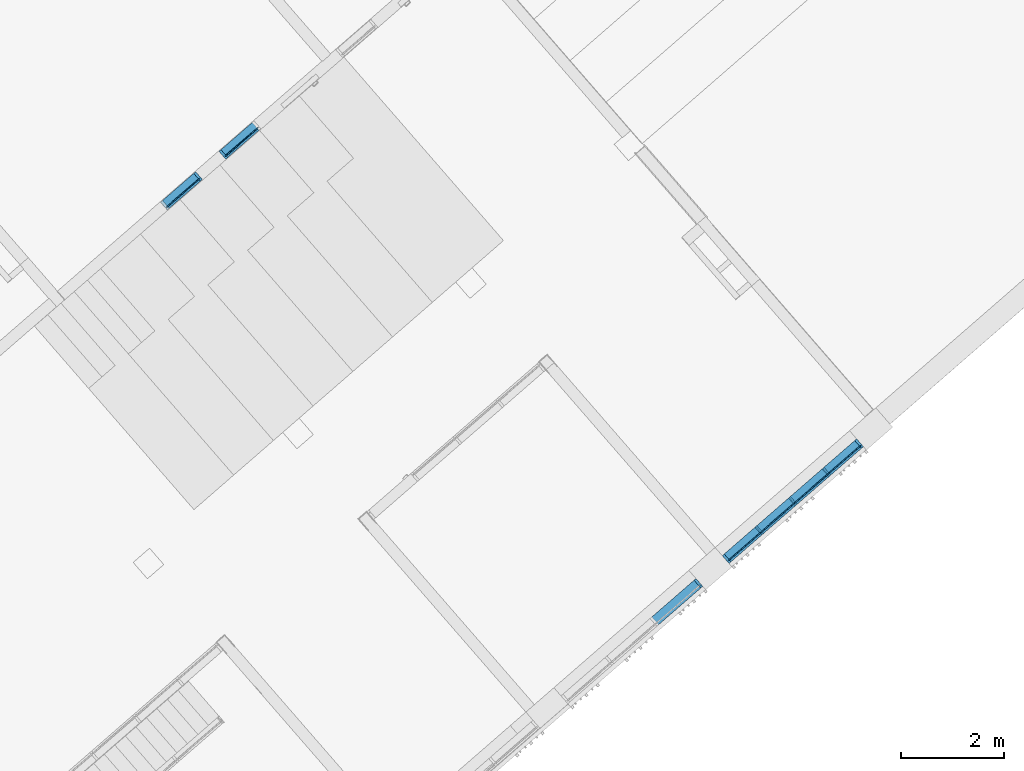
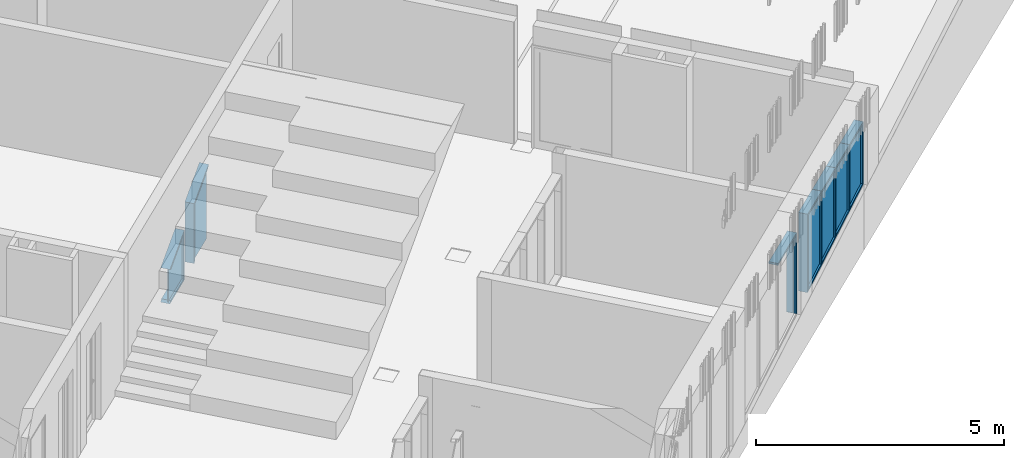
# One storey, part 12 of 124: 26 discrete accessories, 4 elements without a shape of their own.
"""IFC2X3 building model written with IfcOpenShell, lengths in millimetres."""

from ifc_helpers import new_model, entity, si_unit, converted_unit, derived_unit, money_unit, direction, frame, origin_with_axes, place, context, subcontext, project, spatial, polyline, outline, extrude, clip, halfspace, material, material_list, type_object, element, aggregate, save


model = new_model("IFC2X3")

# Units and contexts
model_context = context("Model", 3, precision=1e-05, world=origin_with_axes(), true_north=direction((0.0, 1.0)))
body_context = subcontext(model_context, "Body", "Model", "MODEL_VIEW")
ifc_project = project(units=[si_unit("LENGTHUNIT", "METRE", prefix="MILLI"), si_unit("AREAUNIT", "SQUARE_METRE"), si_unit("VOLUMEUNIT", "CUBIC_METRE"), converted_unit("PLANEANGLEUNIT", "DEGREE", entity("IfcPlaneAngleMeasure", 0.0174532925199), si_unit("PLANEANGLEUNIT", "RADIAN"), dimensions=[0, 0, 0, 0, 0, 0, 0]), si_unit("SOLIDANGLEUNIT", "STERADIAN"), money_unit("EUR"), converted_unit("TIMEUNIT", "Year", entity("IfcTimeMeasure", 31556926.0), si_unit("TIMEUNIT", "SECOND"), dimensions=[0, 0, 1, 0, 0, 0, 0]), si_unit("MASSUNIT", "GRAM", prefix="KILO"), si_unit("THERMODYNAMICTEMPERATUREUNIT", "DEGREE_CELSIUS"), si_unit("LUMINOUSINTENSITYUNIT", "LUMEN"), si_unit("ENERGYUNIT", "JOULE", prefix="MEGA"), derived_unit("THERMALCONDUCTANCEUNIT", [(si_unit("POWERUNIT", "WATT"), 1), (si_unit("LENGTHUNIT", "METRE"), -1), (si_unit("THERMODYNAMICTEMPERATUREUNIT", "KELVIN"), -1)]), derived_unit("SPECIFICHEATCAPACITYUNIT", [(si_unit("ENERGYUNIT", "JOULE"), 1), (si_unit("MASSUNIT", "GRAM", prefix="KILO"), -1), (si_unit("THERMODYNAMICTEMPERATUREUNIT", "KELVIN"), -1)]), derived_unit("MASSDENSITYUNIT", [(si_unit("MASSUNIT", "GRAM", prefix="KILO"), 1), (si_unit("VOLUMEUNIT", "CUBIC_METRE"), -1)])], contexts=[model_context])

# Site, building, storey
site_placement = place(None, origin_with_axes())
site = spatial("IfcSite", under=ifc_project, at=site_placement, Name="Site", CompositionType="ELEMENT")
building_placement = place(site_placement, origin_with_axes())
building = spatial("IfcBuilding", under=site, at=building_placement, Name="Building", CompositionType="ELEMENT")
storey_placement = place(building_placement, frame((0.0, 0.0, -1615.0), z_axis=(0.0, 0.0, 1.0), x_axis=(1.0, 0.0, 0.0)))
storey = spatial("IfcBuildingStorey", under=building, at=storey_placement, Name="0  korrus", CompositionType="ELEMENT", Elevation=-1615.0)

# Curtain wall, discrete accessories
curtain_wall_type_1 = type_object("IfcCurtainWallType", Name="KLF-01", PredefinedType="NOTDEFINED")
curtain_wall_1_placement = place(storey_placement, frame((171064.169464, 93549.0825919, 619.521386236), z_axis=(0.0, 0.0, 1.0), x_axis=(1.0, 0.0, 0.0)))
curtain_wall_1 = element("IfcCurtainWall", 1, at=curtain_wall_1_placement, inside=storey, type_object=curtain_wall_type_1, Name="Klaasfassaad")
ifc_material_1 = material(Name="Klaas")
discrete_accessory_type_1 = type_object("IfcDiscreteAccessoryType", Name="Distinct Panel 863 x 1698 x 20")
discrete_accessory_1_placement = place(curtain_wall_1_placement, frame((0.0, 0.0, 1086.09778651), z_axis=(0.0, 0.0, 1.0), x_axis=(-0.754709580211, -0.656059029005, 0.0)))
discrete_accessory_1 = element("IfcDiscreteAccessory", 2, at=discrete_accessory_1_placement, type_object=discrete_accessory_type_1, material=ifc_material_1, Name="KLF-01 klaaspakett", context=body_context, shape_type="SweptSolid", body=[
    extrude(outline(polyline([(-431.250048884, -824.67149797), (431.25005364, -824.67149797), (431.25005364, 872.831743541), (-431.250048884, 776.261252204), (-431.250048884, -824.67149797)])), frame((0.0, -9.99999999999, 0.0), z_axis=(0.0, 1.0, 0.0), x_axis=(1.0, 0.0, 0.0)), (0.0, 0.0, 1.0), 20.0),
])
discrete_accessory_type_2 = type_object("IfcDiscreteAccessoryType", Name="Distinct Panel 843 x 1888 x 20")
discrete_accessory_2_placement = place(curtain_wall_1_placement, frame((-1301.87415604, -1131.7019382, 989.5272469), z_axis=(0.0, 0.0, 1.0), x_axis=(-0.754709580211, -0.656059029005, 0.0)))
discrete_accessory_2 = element("IfcDiscreteAccessory", 3, at=discrete_accessory_2_placement, type_object=discrete_accessory_type_2, material=ifc_material_1, Name="KLF-01 klaaspakett", context=body_context, shape_type="SweptSolid", body=[
    extrude(outline(polyline([(-431.250031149, -921.241968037), (411.250045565, -921.241996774), (411.250045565, 967.162934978), (-431.250031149, 872.831736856), (-431.250031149, -921.241968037)])), frame((0.0, -10.0, 0.0), z_axis=(0.0, 1.0, 0.0), x_axis=(1.0, 0.0, 0.0)), (0.0, 0.0, 1.0), 20.0),
])
discrete_accessory_type_3 = type_object("IfcDiscreteAccessoryType", Name="Distinct Panel 863 x 1794 x 20")
discrete_accessory_3_placement = place(curtain_wall_1_placement, frame((-650.937078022, -565.850969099, 1037.81252112), z_axis=(0.0, 0.0, 1.0), x_axis=(-0.754709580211, -0.656059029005, 0.0)))
discrete_accessory_3 = element("IfcDiscreteAccessory", 4, at=discrete_accessory_3_placement, type_object=discrete_accessory_type_3, material=ifc_material_1, Name="KLF-01 klaaspakett", context=body_context, shape_type="SweptSolid", body=[
    extrude(outline(polyline([(-431.250032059, -872.956736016), (431.250043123, -872.956708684), (431.250043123, 921.117003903), (-431.250032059, 824.546477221), (-431.250032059, -872.956736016)])), frame((0.0, -10.0, 0.0), z_axis=(0.0, 1.0, 0.0), x_axis=(1.0, 0.0, 0.0)), (0.0, 0.0, 1.0), 20.0),
])
discrete_accessory_type_4 = type_object("IfcDiscreteAccessoryType", Name="Distinct Panel 843 x 1601 x 20")
discrete_accessory_4_placement = place(curtain_wall_1_placement, frame((650.937078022, 565.850969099, 1134.38303973), z_axis=(0.0, 0.0, 1.0), x_axis=(-0.754709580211, -0.656059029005, 0.0)))
discrete_accessory_4 = element("IfcDiscreteAccessory", 5, at=discrete_accessory_4_placement, type_object=discrete_accessory_type_4, material=ifc_material_1, Name="KLF-01 klaaspakett", context=body_context, shape_type="SweptSolid", body=[
    extrude(outline(polyline([(-411.250032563, -776.386216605), (431.250052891, -776.386216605), (431.250052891, 824.546524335), (-411.250032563, 730.215318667), (-411.250032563, -776.386216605)])), frame((0.0, -9.99999999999, 0.0), z_axis=(0.0, 1.0, 0.0), x_axis=(1.0, 0.0, 0.0)), (0.0, 0.0, 1.0), 20.0),
])
ifc_material_2 = material(Name="Aluminium MUST")
discrete_accessory_type_5 = type_object("IfcDiscreteAccessoryType", Name="50 x 200")
discrete_accessory_5_placement = place(curtain_wall_1_placement, frame((325.468539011, 282.925484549, 289.711545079), z_axis=(0.750022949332, 0.651985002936, 0.111270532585), x_axis=(-0.0839769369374, -0.0730000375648, 0.99379015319)))
discrete_accessory_5 = element("IfcDiscreteAccessory", 6, at=discrete_accessory_5_placement, type_object=discrete_accessory_type_5, material=ifc_material_2, Name="KLF-04 profiil", context=body_context, shape_type="Clipping", body=[
    clip(extrude(outline(polyline([(-10.0, -25.0), (9.99999999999, -25.0), (10.0, -50.0), (50.0, -50.0), (50.0, 0.0), (-150.0, 0.0), (-150.0, -50.0), (-9.99999999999, -50.0), (-10.0, -25.0)])), frame((0.0, 0.0, -1.47173295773e-06), z_axis=(0.0, 0.0, 1.0), x_axis=(0.0, 1.0, 0.0)), (0.0, 0.0, 1.0), 867.889548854), halfspace(frame((431.250043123, 0.0, 482.230039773), z_axis=(-0.666606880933, 0.0, -0.74540946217), x_axis=(0.0, 1.0, 0.0)), True)),
])
ifc_material_list_1 = material_list([ifc_material_2, ifc_material_2])
discrete_accessory_6_placement = place(curtain_wall_1_placement, frame((-325.468539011, -282.925484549, 193.141064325), z_axis=(0.0, 0.0, 1.0), x_axis=(-0.754709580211, -0.656059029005, 0.0)))
discrete_accessory_6 = element("IfcDiscreteAccessory", 7, at=discrete_accessory_6_placement, type_object=discrete_accessory_type_5, material=ifc_material_list_1, Name="KLF-04 profiil", context=body_context, shape_type="Clipping", body=[
    clip(extrude(outline(polyline([(-117.276593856, 96.8049613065), (-25.4283297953, -8.85437992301), (12.3071492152, 23.9485715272), (-79.5411148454, 129.607912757), (-117.276593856, 96.8049613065)])), frame((0.0, 0.0, 47.5132880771), z_axis=(0.0, 0.0, 1.0), x_axis=(-0.754709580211, 0.656059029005, 0.0)), (0.0, 0.0, 1.0), 1640.11491534), halfspace(frame((5.56352370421, 0.0, 49.689507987), z_axis=(0.111270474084, 0.0, 0.993790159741), x_axis=(0.0, -1.0, 0.0)), True)),
    clip(extrude(outline(polyline([(51.6706909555, -21.3340032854), (25.4283297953, 8.85437992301), (-12.3071492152, -23.9485715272), (13.935211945, -54.1369547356), (51.6706909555, -21.3340032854)])), frame((0.0, 0.0, 47.5132880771), z_axis=(0.0, 0.0, 1.0), x_axis=(-0.754709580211, 0.656059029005, 0.0)), (0.0, 0.0, 1.0), 1640.11491872), halfspace(frame((5.56352370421, 0.0, 49.689507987), z_axis=(0.111270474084, 0.0, 0.993790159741), x_axis=(0.0, -1.0, 0.0)), True)),
])
discrete_accessory_7_placement = place(curtain_wall_1_placement, frame((-1627.34269505, -1414.62742275, -5.48544265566e-06), z_axis=(0.0, 0.0, 1.0), x_axis=(-0.754709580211, -0.656059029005, 0.0)))
discrete_accessory_7 = element("IfcDiscreteAccessory", 8, at=discrete_accessory_7_placement, type_object=discrete_accessory_type_5, material=ifc_material_2, Name="KLF-04 profiil", context=body_context, shape_type="Clipping", body=[
    clip(clip(extrude(outline(polyline([(12.3071492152, 23.9485715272), (31.1748887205, 40.3500472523), (-60.6733753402, 146.009388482), (-98.4088543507, 113.206437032), (32.8029514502, -37.7354790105), (70.5384304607, -4.9325275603), (44.2960693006, 25.2558556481), (25.4283297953, 8.85437992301), (12.3071492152, 23.9485715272)])), frame((0.0, 0.0, 0.0), z_axis=(0.0, 0.0, 1.0), x_axis=(-0.754709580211, 0.656059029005, 0.0)), (0.0, 0.0, 1.0), 1930.76924672), halfspace(frame((-965.384623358, 0.0, 965.38459925), z_axis=(0.707106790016, 0.0, -0.707106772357), x_axis=(0.0, 1.0, 0.0)), True)), halfspace(frame((0.0, 0.0, 0.0), z_axis=(0.745409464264, 0.0, 0.666606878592), x_axis=(0.0, -1.0, 0.0)), True)),
])
discrete_accessory_8_placement = place(curtain_wall_1_placement, frame((976.405617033, 848.776453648, 1930.76926831), z_axis=(-0.754709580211, -0.656059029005, 0.0), x_axis=(0.0, 0.0, -1.0)))
discrete_accessory_8 = element("IfcDiscreteAccessory", 9, at=discrete_accessory_8_placement, type_object=discrete_accessory_type_5, material=ifc_material_2, Name="KLF-04 profiil", context=body_context, shape_type="Clipping", body=[
    clip(extrude(outline(polyline([(9.99999999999, 25.0), (-9.99999999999, 25.0), (-9.99999999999, 50.0), (-50.0, 50.0), (-50.0, 0.0), (150.0, 0.0), (150.0, 50.0), (9.99999999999, 50.0), (9.99999999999, 25.0)])), frame((0.0, 0.0, 0.0), z_axis=(0.0, 0.0, 1.0), x_axis=(0.0, -1.0, 0.0)), (0.0, 0.0, 1.0), 862.500086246), halfspace(frame((0.0, 0.0, 0.0), z_axis=(-0.707106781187, 0.0, 0.707106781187), x_axis=(0.0, -1.0, 0.0)), True)),
])
discrete_accessory_9_placement = place(curtain_wall_1_placement, frame((-325.468539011, -282.925484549, 193.141064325), z_axis=(0.750022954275, 0.651985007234, 0.111270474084), x_axis=(-0.083976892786, -0.0729999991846, 0.993790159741)))
discrete_accessory_9 = element("IfcDiscreteAccessory", 10, at=discrete_accessory_9_placement, type_object=discrete_accessory_type_5, material=ifc_material_2, Name="KLF-04 profiil", context=body_context, shape_type="SweptSolid", body=[
    extrude(outline(polyline([(-10.0, -25.0), (10.0, -25.0), (10.0, -50.0), (50.0, -50.0), (50.0, 0.0), (-150.0, 0.0), (-150.0, -50.0), (-9.99999999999, -50.0), (-10.0, -25.0)])), frame((0.0, 0.0, -1.47170453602e-06), z_axis=(0.0, 0.0, 1.0), x_axis=(0.0, 1.0, 0.0)), (0.0, 0.0, 1.0), 867.889544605),
])
discrete_accessory_10_placement = place(curtain_wall_1_placement, frame((325.468539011, 282.925484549, 289.711545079), z_axis=(0.0, 0.0, 1.0), x_axis=(-0.754709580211, -0.656059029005, 0.0)))
discrete_accessory_10 = element("IfcDiscreteAccessory", 11, at=discrete_accessory_10_placement, type_object=discrete_accessory_type_5, material=ifc_material_list_1, Name="KLF-04 profiil", context=body_context, shape_type="Clipping", body=[
    clip(extrude(outline(polyline([(-117.276593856, 96.8049613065), (-25.4283297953, -8.85437992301), (12.3071492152, 23.9485715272), (-79.5411148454, 129.607912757), (-117.276593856, 96.8049613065)])), frame((0.0, 0.0, 47.5132869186), z_axis=(0.0, 0.0, 1.0), x_axis=(-0.754709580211, 0.656059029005, 0.0)), (0.0, 0.0, 1.0), 1543.54443631), halfspace(frame((5.56352662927, 0.0, 49.6895076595), z_axis=(0.111270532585, 0.0, 0.99379015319), x_axis=(0.0, -1.0, 0.0)), True)),
    clip(extrude(outline(polyline([(51.6706909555, -21.3340032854), (25.4283297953, 8.85437992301), (-12.3071492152, -23.9485715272), (13.935211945, -54.1369547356), (51.6706909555, -21.3340032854)])), frame((0.0, 0.0, 47.5132869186), z_axis=(0.0, 0.0, 1.0), x_axis=(-0.754709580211, 0.656059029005, 0.0)), (0.0, 0.0, 1.0), 1543.54443631), halfspace(frame((5.56352662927, 0.0, 49.6895076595), z_axis=(0.111270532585, 0.0, 0.99379015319), x_axis=(0.0, -1.0, 0.0)), True)),
])
discrete_accessory_11_placement = place(curtain_wall_1_placement, frame((-976.405617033, -848.776453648, 96.5705321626), z_axis=(0.750022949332, 0.651985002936, 0.111270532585), x_axis=(-0.0839769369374, -0.0730000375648, 0.99379015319)))
discrete_accessory_11 = element("IfcDiscreteAccessory", 12, at=discrete_accessory_11_placement, type_object=discrete_accessory_type_5, material=ifc_material_2, Name="KLF-04 profiil", context=body_context, shape_type="SweptSolid", body=[
    extrude(outline(polyline([(-9.99999999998, -25.0), (10.0, -25.0), (10.0, -50.0), (50.0, -50.0), (50.0, 0.0), (-150.0, 0.0), (-150.0, -50.0), (-10.0, -50.0), (-9.99999999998, -25.0)])), frame((0.0, 0.0, -1.57029944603e-07), z_axis=(0.0, 0.0, 1.0), x_axis=(0.0, 1.0, 0.0)), (0.0, 0.0, 1.0), 867.889549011),
])
discrete_accessory_12_placement = place(curtain_wall_1_placement, frame((-325.468539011, -282.925484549, 1930.76926831), z_axis=(-0.754709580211, -0.656059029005, -5.63671925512e-08), x_axis=(4.25408602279e-08, 3.69802056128e-08, -1.0)))
discrete_accessory_12 = element("IfcDiscreteAccessory", 13, at=discrete_accessory_12_placement, type_object=discrete_accessory_type_5, material=ifc_material_2, Name="KLF-04 profiil", context=body_context, shape_type="SweptSolid", body=[
    extrude(outline(polyline([(10.0, 25.0), (-10.0, 25.0), (-9.99999999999, 50.0), (-50.0, 50.0), (-50.0, 0.0), (150.0, 0.0), (150.0, 50.0), (10.0, 50.0), (10.0, 25.0)])), frame((0.0, 0.0, -1.40914835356e-06), z_axis=(0.0, 0.0, 1.0), x_axis=(0.0, -1.0, 0.0)), (0.0, 0.0, 1.0), 862.500089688),
])
discrete_accessory_13_placement = place(curtain_wall_1_placement, frame((976.405617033, 848.776453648, 386.282077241), z_axis=(0.0, 0.0, 1.0), x_axis=(-0.754709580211, -0.656059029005, 0.0)))
discrete_accessory_13 = element("IfcDiscreteAccessory", 14, at=discrete_accessory_13_placement, type_object=discrete_accessory_type_5, material=ifc_material_2, Name="KLF-04 profiil", context=body_context, shape_type="Clipping", body=[
    clip(clip(extrude(outline(polyline([(-25.4283297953, -8.85437992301), (-12.3071492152, -23.9485715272), (-31.1748887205, -40.3500472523), (-4.9325275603, -70.5384304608), (32.8029514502, -37.7354790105), (-98.4088543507, 113.206437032), (-136.144333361, 80.4034855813), (-44.2960693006, -25.2558556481), (-25.4283297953, -8.85437992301)])), frame((0.0, 0.0, 0.0), z_axis=(0.0, 0.0, 1.0), x_axis=(-0.754709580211, 0.656059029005, 0.0)), (0.0, 0.0, 1.0), 1544.48719107), halfspace(frame((772.243595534, 0.0, 772.243595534), z_axis=(-0.707106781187, 0.0, -0.707106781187), x_axis=(0.0, 1.0, 0.0)), True)), halfspace(frame((0.0, 0.0, 0.0), z_axis=(-0.666606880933, 0.0, 0.74540946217), x_axis=(0.0, -1.0, 0.0)), True)),
])
discrete_accessory_14_placement = place(curtain_wall_1_placement, frame((-1627.34269505, -1414.62742275, -5.48544265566e-06), z_axis=(0.750022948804, 0.651985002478, 0.111270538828), x_axis=(-0.0839769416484, -0.0730000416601, 0.993790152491)))
discrete_accessory_14 = element("IfcDiscreteAccessory", 15, at=discrete_accessory_14_placement, type_object=discrete_accessory_type_5, material=ifc_material_2, Name="KLF-04 profiil", context=body_context, shape_type="Clipping", body=[
    clip(extrude(outline(polyline([(-10.0, -25.0), (9.99999999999, -25.0), (9.99999999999, -50.0), (50.0, -50.0), (50.0, 0.0), (-150.0, 0.0), (-150.0, -50.0), (-9.99999999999, -50.0), (-10.0, -25.0)])), frame((0.0, 0.0, 0.0), z_axis=(0.0, 0.0, 1.0), x_axis=(0.0, 1.0, 0.0)), (0.0, 0.0, 1.0), 867.88954815), halfspace(frame((0.0, 0.0, 0.0), z_axis=(-0.745409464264, 0.0, 0.666606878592), x_axis=(0.0, -1.0, 0.0)), True)),
])
discrete_accessory_15_placement = place(curtain_wall_1_placement, frame((325.468539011, 282.925484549, 1930.76926831), z_axis=(-0.754709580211, -0.656059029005, 0.0), x_axis=(0.0, 0.0, -1.0)))
discrete_accessory_15 = element("IfcDiscreteAccessory", 16, at=discrete_accessory_15_placement, type_object=discrete_accessory_type_5, material=ifc_material_2, Name="KLF-04 profiil", context=body_context, shape_type="SweptSolid", body=[
    extrude(outline(polyline([(10.0, 25.0), (-10.0, 25.0), (-10.0, 50.0), (-50.0, 50.0), (-50.0, 0.0), (150.0, 0.0), (150.0, 50.0), (10.0, 50.0), (10.0, 25.0)])), frame((0.0, 0.0, 0.0), z_axis=(0.0, 0.0, 1.0), x_axis=(0.0, -1.0, 0.0)), (0.0, 0.0, 1.0), 862.500087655),
])
discrete_accessory_16_placement = place(curtain_wall_1_placement, frame((-976.405617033, -848.776453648, 1930.76921969), z_axis=(-0.754709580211, -0.656059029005, 2.49733374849e-08), x_axis=(-1.88476170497e-08, -1.63839835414e-08, -1.0)))
discrete_accessory_16 = element("IfcDiscreteAccessory", 17, at=discrete_accessory_16_placement, type_object=discrete_accessory_type_5, material=ifc_material_2, Name="KLF-04 profiil", context=body_context, shape_type="Clipping", body=[
    clip(extrude(outline(polyline([(9.99999999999, 25.0), (-10.0, 25.0), (-10.0, 50.0), (-50.0, 50.0), (-50.0, 0.0), (150.0, 0.0), (150.0, 50.0), (9.99999999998, 50.0), (9.99999999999, 25.0)])), frame((0.0, 0.0, -2.03354488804e-06), z_axis=(0.0, 0.0, 1.0), x_axis=(0.0, -1.0, 0.0)), (0.0, 0.0, 1.0), 862.500088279), halfspace(frame((431.250043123, 0.0, 431.250032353), z_axis=(-0.707106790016, 0.0, -0.707106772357), x_axis=(0.0, 1.0, 0.0)), True)),
])
discrete_accessory_17_placement = place(curtain_wall_1_placement, frame((-976.405617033, -848.776453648, 96.5705321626), z_axis=(0.0, 0.0, 1.0), x_axis=(-0.754709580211, -0.656059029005, 0.0)))
discrete_accessory_17 = element("IfcDiscreteAccessory", 18, at=discrete_accessory_17_placement, type_object=discrete_accessory_type_5, material=ifc_material_list_1, Name="KLF-04 profiil", context=body_context, shape_type="Clipping", body=[
    clip(extrude(outline(polyline([(-117.276593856, 96.8049613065), (-25.4283297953, -8.85437992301), (12.3071492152, 23.9485715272), (-79.5411148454, 129.607912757), (-117.276593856, 96.8049613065)])), frame((0.0, 0.0, 47.5132869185), z_axis=(0.0, 0.0, 1.0), x_axis=(-0.754709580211, 0.656059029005, 0.0)), (0.0, 0.0, 1.0), 1736.68540036), halfspace(frame((5.56352662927, 0.0, 49.6895076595), z_axis=(0.111270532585, 0.0, 0.99379015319), x_axis=(0.0, -1.0, 0.0)), True)),
    clip(extrude(outline(polyline([(51.6706909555, -21.3340032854), (25.4283297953, 8.85437992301), (-12.3071492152, -23.9485715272), (13.935211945, -54.1369547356), (51.6706909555, -21.3340032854)])), frame((0.0, 0.0, 47.5132869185), z_axis=(0.0, 0.0, 1.0), x_axis=(-0.754709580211, 0.656059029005, 0.0)), (0.0, 0.0, 1.0), 1736.68540186), halfspace(frame((5.56352662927, 0.0, 49.6895076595), z_axis=(0.111270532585, 0.0, 0.99379015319), x_axis=(0.0, -1.0, 0.0)), True)),
])
aggregate(curtain_wall_1, [discrete_accessory_1, discrete_accessory_2, discrete_accessory_3, discrete_accessory_4, discrete_accessory_5, discrete_accessory_6, discrete_accessory_7, discrete_accessory_8, discrete_accessory_9, discrete_accessory_10, discrete_accessory_11, discrete_accessory_12, discrete_accessory_13, discrete_accessory_14, discrete_accessory_15, discrete_accessory_16, discrete_accessory_17])

curtain_wall_type_2 = type_object("IfcCurtainWallType", Name="KS-08", PredefinedType="NOTDEFINED")
curtain_wall_2_placement = place(storey_placement, frame((158892.83979, 99279.6170725, 9.8956762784e-06), z_axis=(0.0, 0.0, 1.0), x_axis=(1.0, 0.0, 0.0)))
curtain_wall_2 = element("IfcCurtainWall", 19, at=curtain_wall_2_placement, inside=storey, type_object=curtain_wall_type_2, Name="Klaas-sein")
discrete_accessory_type_6 = type_object("IfcDiscreteAccessoryType", Name="Distinct Panel 860 x 811 x 20")
discrete_accessory_18_placement = place(curtain_wall_2_placement, frame((0.0, 0.0, 516.42680259), z_axis=(0.0, 0.0, 1.0), x_axis=(-0.754709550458, -0.656059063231, 0.0)))
discrete_accessory_18 = element("IfcDiscreteAccessory", 20, at=discrete_accessory_18_placement, type_object=discrete_accessory_type_6, material=ifc_material_1, Name="KS-08 klaaspakett", context=body_context, shape_type="SweptSolid", body=[
    extrude(outline(polyline([(-429.999993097, -674.70308543), (430.000012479, -314.78884627), (430.000012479, 496.426815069), (-429.999993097, 496.426815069), (-429.999993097, -674.70308543)])), frame((0.0, -10.0, 0.0), z_axis=(0.0, 1.0, 0.0), x_axis=(1.0, 0.0, 0.0)), (0.0, 0.0, 1.0), 20.0),
])
ifc_material_list_2 = material_list([ifc_material_2, ifc_material_2, ifc_material_2])
discrete_accessory_type_7 = type_object("IfcDiscreteAccessoryType", Name="50 x 200")
discrete_accessory_19_placement = place(curtain_wall_2_placement, frame((339.619297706, 295.226578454, 1221.18081421), z_axis=(-0.696199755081, -0.605197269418, -0.386059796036), x_axis=(0.291363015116, 0.253278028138, -0.92247375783)))
discrete_accessory_19 = element("IfcDiscreteAccessory", 21, at=discrete_accessory_19_placement, type_object=discrete_accessory_type_7, material=ifc_material_list_2, Name="KS-08 profiil", context=body_context, shape_type="Clipping", body=[
    clip(clip(extrude(outline(polyline([(9.99999999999, 25.0), (-10.0, 25.0), (-10.0, 0.0), (10.0, 0.0), (9.99999999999, 25.0)])), frame((0.0, 0.0, 0.0), z_axis=(0.0, 0.0, 1.0), x_axis=(0.0, -1.0, 0.0)), (0.0, 0.0, 1.0), 975.63750986), halfspace(frame((450.0, 0.0, 676.14596396), z_axis=(-0.554048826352, 0.0, -0.832484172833), x_axis=(0.0, 1.0, 0.0)), True)), halfspace(frame((0.0, 0.0, 0.0), z_axis=(-0.832484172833, 0.0, 0.554048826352), x_axis=(0.0, -1.0, 0.0)), True)),
    clip(clip(extrude(outline(polyline([(150.0, 50.0), (9.99999999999, 50.0), (10.0, 0.0), (150.0, 0.0), (150.0, 50.0)])), frame((0.0, 0.0, 0.0), z_axis=(0.0, 0.0, 1.0), x_axis=(0.0, -1.0, 0.0)), (0.0, 0.0, 1.0), 975.63750986), halfspace(frame((450.0, 0.0, 676.14596396), z_axis=(-0.554048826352, 0.0, -0.832484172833), x_axis=(0.0, 1.0, 0.0)), True)), halfspace(frame((0.0, 0.0, 0.0), z_axis=(-0.832484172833, 0.0, 0.554048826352), x_axis=(0.0, -1.0, 0.0)), True)),
    clip(clip(extrude(outline(polyline([(-50.0, 0.0), (-10.0, 0.0), (-10.0, 50.0), (-50.0, 50.0), (-50.0, 0.0)])), frame((0.0, 0.0, 0.0), z_axis=(0.0, 0.0, 1.0), x_axis=(0.0, -1.0, 0.0)), (0.0, 0.0, 1.0), 975.63750986), halfspace(frame((450.0, 0.0, 676.14596396), z_axis=(-0.554048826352, 0.0, -0.832484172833), x_axis=(0.0, 1.0, 0.0)), True)), halfspace(frame((0.0, 0.0, 0.0), z_axis=(-0.832484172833, 0.0, 0.554048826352), x_axis=(0.0, -1.0, 0.0)), True)),
])
discrete_accessory_20_placement = place(curtain_wall_2_placement, frame((339.619297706, 295.226578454, 0.0), z_axis=(0.0, 0.0, 1.0), x_axis=(-0.754709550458, -0.656059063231, 0.0)))
discrete_accessory_20 = element("IfcDiscreteAccessory", 22, at=discrete_accessory_20_placement, type_object=discrete_accessory_type_7, material=ifc_material_list_2, Name="KS-08 profiil", context=body_context, shape_type="Clipping", body=[
    clip(clip(extrude(outline(polyline([(-25.4283293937, -8.8543810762), (-12.3071481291, -23.9485720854), (6.56059063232, -7.54709550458), (-6.56059063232, 7.54709550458), (-25.4283293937, -8.8543810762)])), frame((0.0, 0.0, 0.0), z_axis=(0.0, 0.0, 1.0), x_axis=(-0.754709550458, 0.656059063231, 0.0)), (0.0, 0.0, 1.0), 1221.18081421), halfspace(frame((563.253627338, 0.0, 374.865999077), z_axis=(-0.832484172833, 0.0, -0.554048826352), x_axis=(0.0, 1.0, 0.0)), True)), halfspace(frame((0.0, 0.0, 0.0), z_axis=(-0.707106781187, 0.0, 0.707106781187), x_axis=(0.0, -1.0, 0.0)), True)),
    clip(clip(extrude(outline(polyline([(-136.144337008, 80.4034794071), (-44.2960681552, -25.255857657), (-6.56059063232, 7.54709550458), (-98.4088594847, 113.206432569), (-136.144337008, 80.4034794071)])), frame((0.0, 0.0, 0.0), z_axis=(0.0, 0.0, 1.0), x_axis=(-0.754709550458, 0.656059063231, 0.0)), (0.0, 0.0, 1.0), 1221.18081421), halfspace(frame((563.253627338, 0.0, 374.865999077), z_axis=(-0.832484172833, 0.0, -0.554048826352), x_axis=(0.0, 1.0, 0.0)), True)), halfspace(frame((0.0, 0.0, 0.0), z_axis=(-0.707106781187, 0.0, 0.707106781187), x_axis=(0.0, -1.0, 0.0)), True)),
    clip(clip(extrude(outline(polyline([(32.8029531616, -37.7354775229), (6.56059063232, -7.54709550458), (-31.1748868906, -40.3500486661), (-4.93252436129, -70.5384306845), (32.8029531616, -37.7354775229)])), frame((0.0, 0.0, 0.0), z_axis=(0.0, 0.0, 1.0), x_axis=(-0.754709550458, 0.656059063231, 0.0)), (0.0, 0.0, 1.0), 1221.18081421), halfspace(frame((563.253627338, 0.0, 374.865999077), z_axis=(-0.832484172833, 0.0, -0.554048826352), x_axis=(0.0, 1.0, 0.0)), True)), halfspace(frame((0.0, 0.0, 0.0), z_axis=(-0.707106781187, 0.0, 0.707106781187), x_axis=(0.0, -1.0, 0.0)), True)),
])
discrete_accessory_21_placement = place(curtain_wall_2_placement, frame((-339.619297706, -295.226578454, 0.0), z_axis=(0.754709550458, 0.656059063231, 0.0), x_axis=(0.0, 0.0, 1.0)))
discrete_accessory_21 = element("IfcDiscreteAccessory", 23, at=discrete_accessory_21_placement, type_object=discrete_accessory_type_7, material=ifc_material_list_2, Name="KS-08 profiil", context=body_context, shape_type="Clipping", body=[
    clip(clip(extrude(outline(polyline([(-10.0, -25.0), (9.99999999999, -25.0), (9.99999999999, 0.0), (-10.0, 0.0), (-10.0, -25.0)])), frame((0.0, 0.0, 0.0), z_axis=(0.0, 0.0, 1.0), x_axis=(0.0, 1.0, 0.0)), (0.0, 0.0, 1.0), 900.0), halfspace(frame((450.0, 0.0, 450.0), z_axis=(-0.707106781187, 0.0, -0.707106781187), x_axis=(0.0, 1.0, 0.0)), True)), halfspace(frame((0.0, 0.0, 0.0), z_axis=(-0.707106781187, 0.0, 0.707106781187), x_axis=(0.0, -1.0, 0.0)), True)),
    clip(clip(extrude(outline(polyline([(-150.0, -50.0), (-10.0, -50.0), (-10.0, 0.0), (-150.0, 0.0), (-150.0, -50.0)])), frame((0.0, 0.0, 0.0), z_axis=(0.0, 0.0, 1.0), x_axis=(0.0, 1.0, 0.0)), (0.0, 0.0, 1.0), 900.0), halfspace(frame((450.0, 0.0, 450.0), z_axis=(-0.707106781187, 0.0, -0.707106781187), x_axis=(0.0, 1.0, 0.0)), True)), halfspace(frame((0.0, 0.0, 0.0), z_axis=(-0.707106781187, 0.0, 0.707106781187), x_axis=(0.0, -1.0, 0.0)), True)),
    clip(clip(extrude(outline(polyline([(50.0, 0.0), (9.99999999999, 0.0), (9.99999999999, -50.0), (50.0, -50.0), (50.0, 0.0)])), frame((0.0, 0.0, 0.0), z_axis=(0.0, 0.0, 1.0), x_axis=(0.0, 1.0, 0.0)), (0.0, 0.0, 1.0), 900.0), halfspace(frame((450.0, 0.0, 450.0), z_axis=(-0.707106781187, 0.0, -0.707106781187), x_axis=(0.0, 1.0, 0.0)), True)), halfspace(frame((0.0, 0.0, 0.0), z_axis=(-0.707106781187, 0.0, 0.707106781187), x_axis=(0.0, -1.0, 0.0)), True)),
])
aggregate(curtain_wall_2, [discrete_accessory_18, discrete_accessory_19, discrete_accessory_20, discrete_accessory_21])

curtain_wall_type_3 = type_object("IfcCurtainWallType", Name="KS-09", PredefinedType="NOTDEFINED")
curtain_wall_3_placement = place(storey_placement, frame((160024.904112, 100263.705583, -1.41054434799e-06), z_axis=(0.0, 0.0, 1.0), x_axis=(1.0, 0.0, 0.0)))
curtain_wall_3 = element("IfcCurtainWall", 24, at=curtain_wall_3_placement, inside=storey, type_object=curtain_wall_type_3, Name="Klaas-sein")
discrete_accessory_type_8 = type_object("IfcDiscreteAccessoryType", Name="Distinct Panel 860 x 1439 x 20")
discrete_accessory_22_placement = place(curtain_wall_3_placement, frame((0.0, 0.0, 830.305461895), z_axis=(0.0, 0.0, 1.0), x_axis=(-0.754709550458, -0.656059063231, 0.0)))
discrete_accessory_22 = element("IfcDiscreteAccessory", 25, at=discrete_accessory_22_placement, type_object=discrete_accessory_type_8, material=ifc_material_1, Name="KS-09 klaaspakett", context=body_context, shape_type="SweptSolid", body=[
    extrude(outline(polyline([(-430.000007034, -988.581764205), (430.000005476, -628.667492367), (430.000005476, 810.305467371), (-430.000007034, 810.305467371), (-430.000007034, -988.581764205)])), frame((0.0, -10.0, 0.0), z_axis=(0.0, 1.0, 0.0), x_axis=(1.0, 0.0, 0.0)), (0.0, 0.0, 1.0), 20.0),
])
discrete_accessory_type_9 = type_object("IfcDiscreteAccessoryType", Name="50 x 200")
discrete_accessory_23_placement = place(curtain_wall_3_placement, frame((-339.619297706, -295.226578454, 0.0), z_axis=(0.0, 0.0, 1.0), x_axis=(-0.754709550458, -0.656059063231, 0.0)))
discrete_accessory_23 = element("IfcDiscreteAccessory", 26, at=discrete_accessory_23_placement, type_object=discrete_accessory_type_9, material=ifc_material_list_2, Name="KS-09 profiil", context=body_context, shape_type="Clipping", body=[
    clip(clip(extrude(outline(polyline([(12.3071481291, 23.9485720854), (-6.56059063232, 7.54709550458), (6.56059063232, -7.54709550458), (25.4283293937, 8.8543810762), (12.3071481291, 23.9485720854)])), frame((0.0, 0.0, 0.0), z_axis=(0.0, 0.0, 1.0), x_axis=(-0.754709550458, 0.656059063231, 0.0)), (0.0, 0.0, 1.0), 1472.28370102), halfspace(frame((0.0, 0.0, 0.0), z_axis=(0.707106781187, 0.0, 0.707106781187), x_axis=(0.0, -1.0, 0.0)), True)), halfspace(frame((-679.071531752, 0.0, 1020.33664081), z_axis=(0.554048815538, 0.0, -0.832484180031), x_axis=(0.0, 1.0, 0.0)), True)),
    clip(clip(extrude(outline(polyline([(-60.6733819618, 146.00938573), (-98.4088594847, 113.206432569), (-6.56059063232, 7.54709550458), (31.1748868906, 40.3500486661), (-60.6733819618, 146.00938573)])), frame((0.0, 0.0, 0.0), z_axis=(0.0, 0.0, 1.0), x_axis=(-0.754709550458, 0.656059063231, 0.0)), (0.0, 0.0, 1.0), 1472.28370102), halfspace(frame((0.0, 0.0, 0.0), z_axis=(0.707106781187, 0.0, 0.707106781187), x_axis=(0.0, -1.0, 0.0)), True)), halfspace(frame((-679.071531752, 0.0, 1020.33664081), z_axis=(0.554048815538, 0.0, -0.832484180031), x_axis=(0.0, 1.0, 0.0)), True)),
    clip(clip(extrude(outline(polyline([(32.8029531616, -37.7354775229), (70.5384306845, -4.93252436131), (44.2960681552, 25.255857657), (6.56059063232, -7.54709550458), (32.8029531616, -37.7354775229)])), frame((0.0, 0.0, 0.0), z_axis=(0.0, 0.0, 1.0), x_axis=(-0.754709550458, 0.656059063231, 0.0)), (0.0, 0.0, 1.0), 1472.28370102), halfspace(frame((0.0, 0.0, 0.0), z_axis=(0.707106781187, 0.0, 0.707106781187), x_axis=(0.0, -1.0, 0.0)), True)), halfspace(frame((-679.071531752, 0.0, 1020.33664081), z_axis=(0.554048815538, 0.0, -0.832484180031), x_axis=(0.0, 1.0, 0.0)), True)),
])
discrete_accessory_24_placement = place(curtain_wall_3_placement, frame((339.619297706, 295.226578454, 1848.93814656), z_axis=(-0.696199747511, -0.605197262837, -0.386059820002), x_axis=(0.291363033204, 0.253278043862, -0.9224737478)))
discrete_accessory_24 = element("IfcDiscreteAccessory", 27, at=discrete_accessory_24_placement, type_object=discrete_accessory_type_9, material=ifc_material_list_2, Name="KS-09 profiil", context=body_context, shape_type="Clipping", body=[
    clip(clip(extrude(outline(polyline([(10.0, 25.0), (-10.0, 25.0), (-9.99999999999, 0.0), (10.0, 0.0), (10.0, 25.0)])), frame((0.0, 0.0, 0.0), z_axis=(0.0, 0.0, 1.0), x_axis=(0.0, -1.0, 0.0)), (0.0, 0.0, 1.0), 975.637520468), halfspace(frame((450.0, 0.0, 676.145983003), z_axis=(-0.554048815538, 0.0, -0.832484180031), x_axis=(0.0, 1.0, 0.0)), True)), halfspace(frame((0.0, 0.0, 0.0), z_axis=(-0.832484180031, 0.0, 0.554048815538), x_axis=(0.0, -1.0, 0.0)), True)),
    clip(clip(extrude(outline(polyline([(150.0, 50.0), (10.0, 50.0), (10.0, 0.0), (150.0, 0.0), (150.0, 50.0)])), frame((0.0, 0.0, 0.0), z_axis=(0.0, 0.0, 1.0), x_axis=(0.0, -1.0, 0.0)), (0.0, 0.0, 1.0), 975.637520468), halfspace(frame((450.0, 0.0, 676.145983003), z_axis=(-0.554048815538, 0.0, -0.832484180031), x_axis=(0.0, 1.0, 0.0)), True)), halfspace(frame((0.0, 0.0, 0.0), z_axis=(-0.832484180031, 0.0, 0.554048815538), x_axis=(0.0, -1.0, 0.0)), True)),
    clip(clip(extrude(outline(polyline([(-50.0, 0.0), (-9.99999999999, 0.0), (-10.0, 50.0), (-50.0, 50.0), (-50.0, 0.0)])), frame((0.0, 0.0, 0.0), z_axis=(0.0, 0.0, 1.0), x_axis=(0.0, -1.0, 0.0)), (0.0, 0.0, 1.0), 975.637520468), halfspace(frame((450.0, 0.0, 676.145983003), z_axis=(-0.554048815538, 0.0, -0.832484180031), x_axis=(0.0, 1.0, 0.0)), True)), halfspace(frame((0.0, 0.0, 0.0), z_axis=(-0.832484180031, 0.0, 0.554048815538), x_axis=(0.0, -1.0, 0.0)), True)),
])
aggregate(curtain_wall_3, [discrete_accessory_22, discrete_accessory_23, discrete_accessory_24])

curtain_wall_type_4 = type_object("IfcCurtainWallType", Name="KLF-02", PredefinedType="NOTDEFINED")
curtain_wall_4_placement = place(storey_placement, frame((167619.863451, 90554.9930528, 100.000014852), z_axis=(0.0, 0.0, 1.0), x_axis=(1.0, 0.0, 0.0)))
curtain_wall_4 = element("IfcCurtainWall", 28, at=curtain_wall_4_placement, inside=storey, type_object=curtain_wall_type_4, Name="Klaasfassaad")
discrete_accessory_type_10 = type_object("IfcDiscreteAccessoryType", Name="50 x 200")
discrete_accessory_25_placement = place(curtain_wall_4_placement, frame((435.844782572, 378.87408925, 2450.00002449), z_axis=(0.75470958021, 0.656059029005, 0.0), x_axis=(0.0, 0.0, 1.0)))
discrete_accessory_25 = element("IfcDiscreteAccessory", 29, at=discrete_accessory_25_placement, type_object=discrete_accessory_type_10, material=ifc_material_2, Name="KLF-02 profiil", context=body_context, shape_type="Clipping", body=[
    clip(extrude(outline(polyline([(-10.0, 25.0), (-9.99999999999, 50.0), (-150.0, 50.0), (-150.0, 0.0), (50.0, 0.0), (50.0, 50.0), (10.0, 50.0), (10.0, 25.0), (-10.0, 25.0)])), frame((0.0, 0.0, 0.0), z_axis=(0.0, 0.0, 1.0), x_axis=(0.0, 1.0, 0.0)), (0.0, 0.0, 1.0), 1155.00000431), halfspace(frame((-577.500002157, 0.0, 577.500002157), z_axis=(0.707106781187, 0.0, -0.707106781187), x_axis=(0.0, 1.0, 0.0)), True)),
])
discrete_accessory_26_placement = place(curtain_wall_4_placement, frame((1307.53435097, 1136.62227058, 443.944443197), z_axis=(0.0, 0.0, 1.0), x_axis=(-0.75470958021, -0.656059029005, 0.0)))
discrete_accessory_26 = element("IfcDiscreteAccessory", 30, at=discrete_accessory_26_placement, type_object=discrete_accessory_type_10, material=ifc_material_2, Name="KLF-02 profiil", context=body_context, shape_type="Clipping", body=[
    clip(clip(extrude(outline(polyline([(-25.4283297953, -8.85437992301), (-12.3071492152, -23.9485715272), (-31.1748887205, -40.3500472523), (-4.93252756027, -70.5384304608), (32.8029514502, -37.7354790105), (-98.4088543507, 113.206437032), (-136.144333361, 80.4034855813), (-44.2960693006, -25.2558556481), (-25.4283297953, -8.85437992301)])), frame((0.0, 0.0, 0.0), z_axis=(0.0, 0.0, 1.0), x_axis=(-0.75470958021, 0.656059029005, 0.0)), (0.0, 0.0, 1.0), 2006.05558129), halfspace(frame((1003.02779065, 0.0, 1003.02779065), z_axis=(-0.707106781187, 0.0, -0.707106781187), x_axis=(0.0, 1.0, 0.0)), True)), halfspace(frame((0.0, 0.0, 0.0), z_axis=(-0.660649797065, 0.0, 0.750694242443), x_axis=(0.0, -1.0, 0.0)), True)),
])
aggregate(curtain_wall_4, [discrete_accessory_25, discrete_accessory_26])

save(model, "model.ifc")
